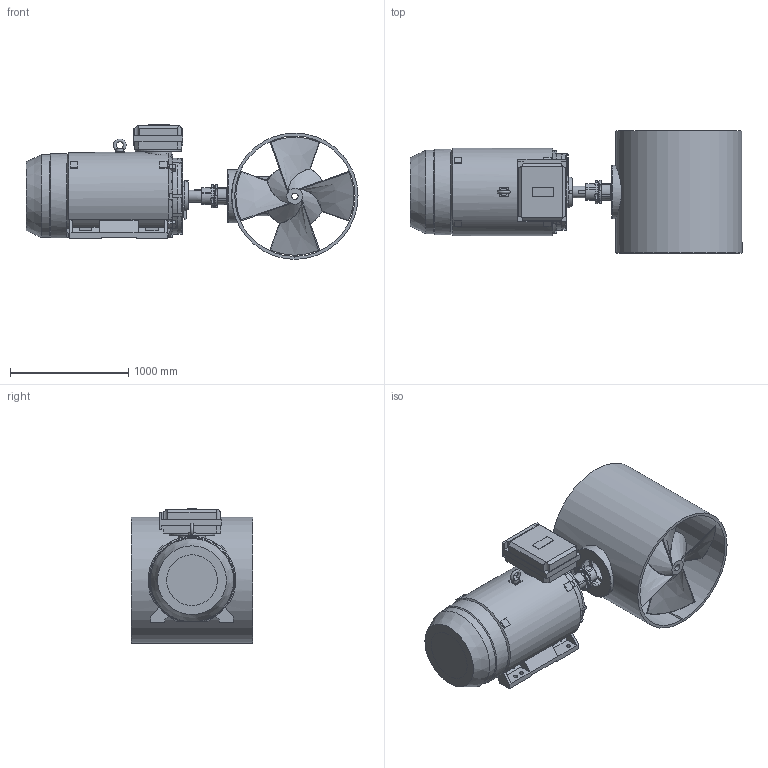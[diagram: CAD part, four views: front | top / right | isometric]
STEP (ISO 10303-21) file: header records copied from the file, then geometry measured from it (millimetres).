
FILE_DESCRIPTION(/* description */ (''),/* implementation_level */ '2;1');
FILE_NAME(/* name */ 'Q:\THRUSTERS\THRUSTER SALES & SUPPORT DOCS\THRUSTER Sales\E-T\E-1000-T\E-1000-T_Shrinkwrap_1.stp',/* time_stamp */ '2021-01-28T09:38:47+00:00',/* author */ ('Barney.Webborn'),/* organization */ (''),/* preprocessor_version */ 'ST-DEVELOPER v17.2',/* originating_system */ 'Autodesk Inventor 2019',/* authorisation */ '');
FILE_SCHEMA (('AUTOMOTIVE_DESIGN { 1 0 10303 214 3 1 1 }'));
Length unit declared in the file: millimetre
Products named in the file (1): E-1000-T_Shrinkwrap_1
Bounding box: 2802.99 x 1030 x 1136.96 mm (x, y, z)
Volume: 725847847.3 mm3; surface area: 18695347.4 mm2
Topology: 8 solids, 8 shells, 925 faces, 2643 edges, 1751 vertices
Faces by surface type: plane 401, cylinder 394, cone 55, torus 45, bspline 30
Full cylindrical faces by diameter (mm): 5.3 x4, 14 x4, 16 x16, 23.75 x2, 30 x4, 35 x6, 40 x1, 65 x3, 90 x3, 100 x1, 110 x1, 120 x2, 126 x1, 170 x2, 229 x1, 244 x1, 250 x1, 264 x1, 310 x2, 312 x1, 386 x1, 450 x1, 470 x2, 502 x1, 510 x2
Entity records: 34627 total; most frequent: CARTESIAN_POINT 8894, DIRECTION 5294, ORIENTED_EDGE 5278, EDGE_CURVE 2639, AXIS2_PLACEMENT_3D 2050, VERTEX_POINT 1751, LINE 1194, VECTOR 1194
